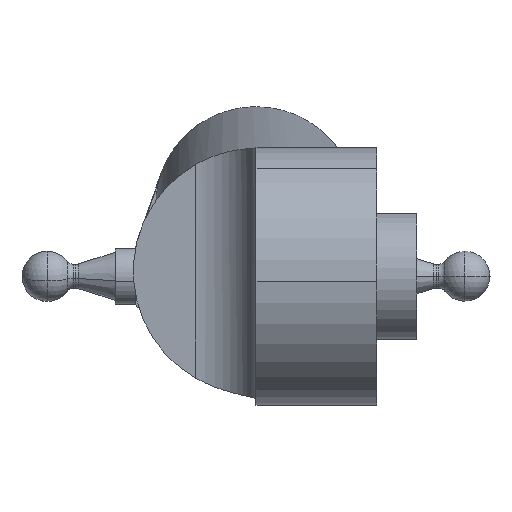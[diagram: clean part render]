
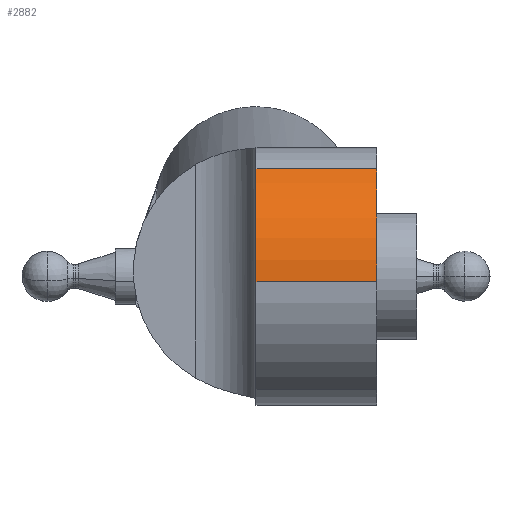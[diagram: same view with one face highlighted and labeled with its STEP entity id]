
A CAD part, left-side view. The second image highlights one B-rep face of the part: STEP entity #2882.
In plain terms, the highlighted cylindrical face has radius 32.5 mm (diameter 65 mm), a partial arc.
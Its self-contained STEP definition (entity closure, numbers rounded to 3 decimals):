
#115 = ORIENTED_EDGE ( 'NONE', *, *, #1674, .F. ) ;
#151 = ORIENTED_EDGE ( 'NONE', *, *, #1982, .T. ) ;
#155 = CARTESIAN_POINT ( 'NONE',  ( 167.528, 0., -91.354 ) ) ;
#209 = DIRECTION ( 'NONE',  ( 0., 1., 0. ) ) ;
#275 = CARTESIAN_POINT ( 'NONE',  ( 181.529, 32.5, -63.259 ) ) ;
#338 = CARTESIAN_POINT ( 'NONE',  ( 200., 32.5, -90. ) ) ;
#406 = CIRCLE ( 'NONE', #2773, 32.5 ) ;
#433 = VERTEX_POINT ( 'NONE', #3839 ) ;
#458 = VECTOR ( 'NONE', #3170, 1000. ) ;
#647 = CARTESIAN_POINT ( 'NONE',  ( 181.529, 0., -63.259 ) ) ;
#704 = FACE_OUTER_BOUND ( 'NONE', #1985, .T. ) ;
#896 = DIRECTION ( 'NONE',  ( -0.999, 0., -0.042 ) ) ;
#1257 = LINE ( 'NONE', #275, #1804 ) ;
#1270 = ORIENTED_EDGE ( 'NONE', *, *, #1451, .T. ) ;
#1335 = AXIS2_PLACEMENT_3D ( 'NONE', #338, #3656, #4068 ) ;
#1451 = EDGE_CURVE ( 'NONE', #3991, #3312, #1257, .T. ) ;
#1526 = DIRECTION ( 'NONE',  ( 0., 1., 0. ) ) ;
#1669 = CARTESIAN_POINT ( 'NONE',  ( 181.529, -30., -63.259 ) ) ;
#1674 = EDGE_CURVE ( 'NONE', #2745, #3312, #3538, .T. ) ;
#1767 = LINE ( 'NONE', #3832, #458 ) ;
#1804 = VECTOR ( 'NONE', #2370, 1000. ) ;
#1824 = EDGE_CURVE ( 'NONE', #2745, #433, #1767, .T. ) ;
#1915 = DIRECTION ( 'NONE',  ( -0.999, 0., -0.042 ) ) ;
#1982 = EDGE_CURVE ( 'NONE', #433, #3991, #406, .T. ) ;
#1985 = EDGE_LOOP ( 'NONE', ( #115, #4259, #151, #1270 ) ) ;
#2278 = CARTESIAN_POINT ( 'NONE',  ( 200., -30., -90. ) ) ;
#2370 = DIRECTION ( 'NONE',  ( 0., 1., 0. ) ) ;
#2634 = CARTESIAN_POINT ( 'NONE',  ( 200., 0., -90. ) ) ;
#2745 = VERTEX_POINT ( 'NONE', #155 ) ;
#2773 = AXIS2_PLACEMENT_3D ( 'NONE', #2278, #209, #896 ) ;
#2882 = ADVANCED_FACE ( 'NONE', ( #704 ), #3679, .T. ) ;
#3170 = DIRECTION ( 'NONE',  ( 0., -1., 0. ) ) ;
#3312 = VERTEX_POINT ( 'NONE', #647 ) ;
#3538 = CIRCLE ( 'NONE', #3684, 32.5 ) ;
#3656 = DIRECTION ( 'NONE',  ( 0., -1., 0. ) ) ;
#3679 = CYLINDRICAL_SURFACE ( 'NONE', #1335, 32.5 ) ;
#3684 = AXIS2_PLACEMENT_3D ( 'NONE', #2634, #1526, #1915 ) ;
#3832 = CARTESIAN_POINT ( 'NONE',  ( 167.528, 32.5, -91.354 ) ) ;
#3839 = CARTESIAN_POINT ( 'NONE',  ( 167.528, -30., -91.354 ) ) ;
#3991 = VERTEX_POINT ( 'NONE', #1669 ) ;
#4068 = DIRECTION ( 'NONE',  ( -0.999, 0., -0.042 ) ) ;
#4259 = ORIENTED_EDGE ( 'NONE', *, *, #1824, .T. ) ;
